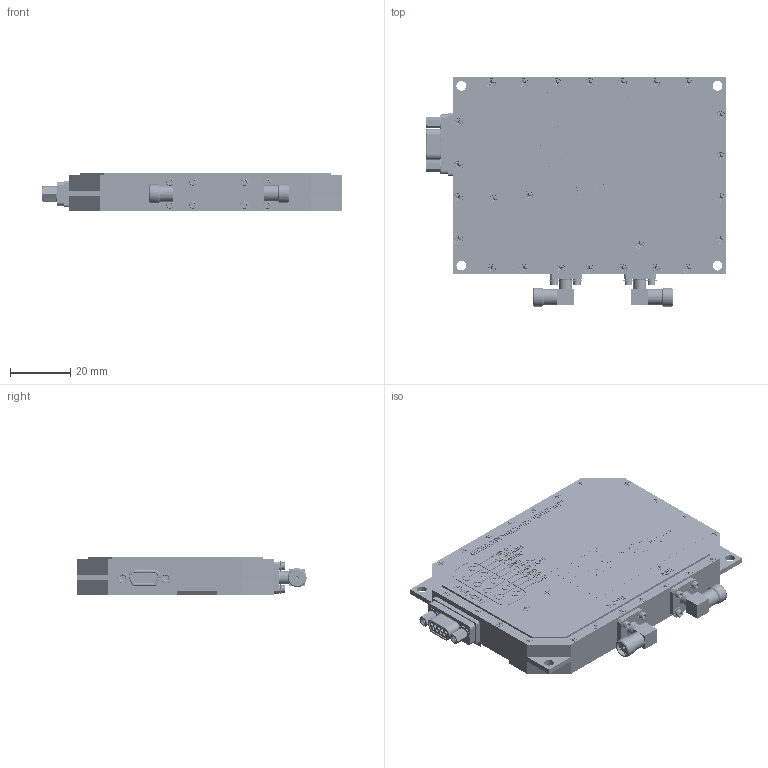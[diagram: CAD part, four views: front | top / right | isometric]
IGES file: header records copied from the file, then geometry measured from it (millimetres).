
Start section: SolidWorks IGES file using analytic representation for surfaces
Global section: file name: \\NUWAVES-FILE01\Allegro_Master_Library\Solidworks_Library\Project_Parts\IRAD\SLYTHERIN\A6092-2000 - INSITU\A6092-2000 3D model for customer.IGS; native system: SolidWorks 2018; preprocessor: SolidWorks 2018; author: bill.landers; date: 180927.105419; units: inch
Bounding box: 99.59 x 76.09 x 12.75 mm (x, y, z)
Surface area: 43195.6 mm2 (no closed solid volume)
Topology: 0 solids, 0 shells, 7288 faces, 99055 edges, 98857 vertices
Faces by surface type: bspline 3982, revolution 3306
